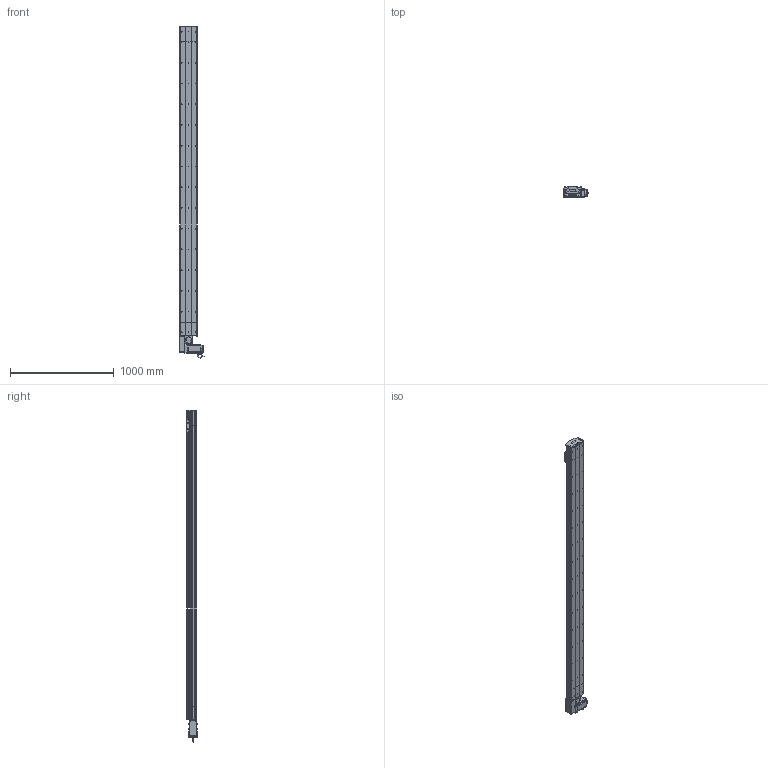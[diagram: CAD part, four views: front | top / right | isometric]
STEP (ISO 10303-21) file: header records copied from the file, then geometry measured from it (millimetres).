
FILE_DESCRIPTION (( 'STEP AP214' ), '1' );
FILE_NAME ('D17 TBN RH S2700.STEP', '2010-06-30T13:07:17', ( 'Conseil Régional Haute-Normandie' ), ( 'Conseil Régional Haute-Normandie' ), 'SwSTEP 2.0', 'SolidWorks 2010', '' );
FILE_SCHEMA (( 'AUTOMOTIVE_DESIGN' ));
Length unit declared in the file: millimetre
Products named in the file (40): vis M5 L16_Default; D17 TBN RH S2700; corp D17B 2700_Default; Couroie+ rail D17 Course 2700 ; Plaque racord D17_Default; vis M5 L70_Default; couvercle D17B course L2700_Default; Conecteur_Default; Conecteur2_Default; codeur 90BLDC125-640; Head RH D17B_Default; plaque de  bout head D17B RH_Default; couvercle D17B head_Default; corpl head D17 _Default; avant 90BLDC125A-640; Moteur motionking 90BLDC125A-640; couroie head D17_Default; corps 90BLDC125A-640; Arbre+rail head D17B; poulie head_Default; vis M5 L5_Default; cache D17_Default; Vis M5 L16-2_Default; guide D17; Chariot D17 TBN; chariot D17 TBN; vis M5 L25_Default; vis M5 L12_Default; vis M5 L8 90°_Default; couvercle D17B_Default; Couroie tail D17B_Default; poulie tail_Default; plaque de  bout tail D17B_Default; Tail D17B+100_Default; Renvoi RH_Default; cache arbre D17_Default; Rail D17B; tete d''axe poulie D17B; corp tail D17B+100_Default; course 2700 D17B_Default
Assembly tree (66 placements, depth 4):
  D17 TBN RH S2700
    Head RH D17B_Default
      cache arbre D17_Default
      Vis M5 L16-2_Default  x4
      vis M5 L12_Default  x8
      Arbre+rail head D17B
      vis M5 L25_Default  x2
      vis M5 L70_Default  x4
      Renvoi RH_Default
      couvercle D17B head_Default
      poulie head_Default
      vis M5 L5_Default  x4
      corpl head D17 _Default
      couroie head D17_Default
      cache D17_Default  x2
      vis M5 L16_Default  x2
      plaque de  bout head D17B RH_Default
      Moteur motionking 90BLDC125A-640
        corps 90BLDC125A-640
        avant 90BLDC125A-640
        Conecteur2_Default
        codeur 90BLDC125-640
        Conecteur_Default
      Plaque racord D17_Default
    chariot D17 TBN
      guide D17  x2
      Chariot D17 TBN
    course 2700 D17B_Default
      couvercle D17B course L2700_Default
      corp D17B 2700_Default
      Couroie+ rail D17 Course 2700 
    Tail D17B+100_Default
      Rail D17B
      poulie tail_Default
      vis M5 L12_Default  x4
      Couroie tail D17B_Default
      vis M5 L25_Default  x2
      vis M5 L8 90°_Default  x2
      couvercle D17B_Default
      tete d''axe poulie D17B
      corp tail D17B+100_Default
      plaque de  bout tail D17B_Default
Bounding box: 245.2 x 105.65 x 3200.95 mm (x, y, z)
Volume: 17765410.9 mm3; surface area: 5175855.7 mm2
Topology: 89 solids, 89 shells, 2643 faces, 6799 edges, 4382 vertices
Faces by surface type: plane 1537, cylinder 809, bspline 136, cone 80, torus 77, sphere 4
Entity records: 86109 total; most frequent: CARTESIAN_POINT 25517, ORIENTED_EDGE 10770, DIRECTION 10158, EDGE_CURVE 5385, VERTEX_POINT 3526, LINE 3524, VECTOR 3524, AXIS2_PLACEMENT_3D 3317
